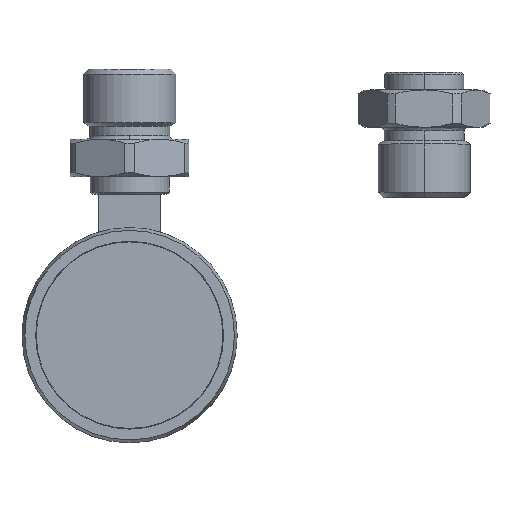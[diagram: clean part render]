
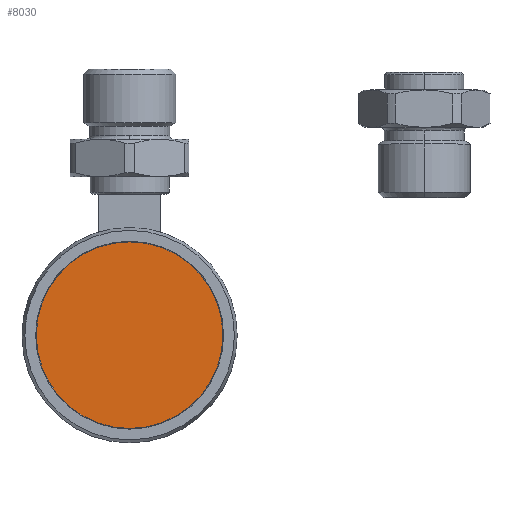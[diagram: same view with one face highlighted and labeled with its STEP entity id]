
A CAD part, top view. The second image highlights one B-rep face of the part: STEP entity #8030.
In plain terms, the highlighted planar face has unit normal (0, 0, 1) as drawn and (1, 0, 0) by its records, which use the part's own axes.
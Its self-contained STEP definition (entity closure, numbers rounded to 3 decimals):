
#150 = EDGE_CURVE ( 'NONE', #9973, #9540, #4288, .T. ) ;
#1051 = FACE_OUTER_BOUND ( 'NONE', #12734, .T. ) ;
#1355 = DIRECTION ( 'NONE',  ( 0., 1., 0. ) ) ;
#1902 = CIRCLE ( 'NONE', #12475, 21.25 ) ;
#2203 = AXIS2_PLACEMENT_3D ( 'NONE', #12285, #16583, #1355 ) ;
#3160 = CARTESIAN_POINT ( 'NONE',  ( 3.179, 0., 0. ) ) ;
#4116 = CARTESIAN_POINT ( 'NONE',  ( 3.179, 0., 0. ) ) ;
#4288 = CIRCLE ( 'NONE', #7824, 21.25 ) ;
#7824 = AXIS2_PLACEMENT_3D ( 'NONE', #4116, #11843, #8452 ) ;
#8030 = ADVANCED_FACE ( 'NONE', ( #1051 ), #10109, .T. ) ;
#8452 = DIRECTION ( 'NONE',  ( 0., 1., 0. ) ) ;
#9163 = EDGE_CURVE ( 'NONE', #9540, #9973, #1902, .T. ) ;
#9396 = DIRECTION ( 'NONE',  ( 0., 1., 0. ) ) ;
#9540 = VERTEX_POINT ( 'NONE', #17049 ) ;
#9973 = VERTEX_POINT ( 'NONE', #13387 ) ;
#10109 = PLANE ( 'NONE',  #2203 ) ;
#10390 = ORIENTED_EDGE ( 'NONE', *, *, #150, .T. ) ;
#10998 = DIRECTION ( 'NONE',  ( 1., 0., 0. ) ) ;
#11843 = DIRECTION ( 'NONE',  ( 1., 0., 0. ) ) ;
#12174 = ORIENTED_EDGE ( 'NONE', *, *, #9163, .T. ) ;
#12285 = CARTESIAN_POINT ( 'NONE',  ( 3.179, 0., -21.25 ) ) ;
#12475 = AXIS2_PLACEMENT_3D ( 'NONE', #3160, #10998, #9396 ) ;
#12734 = EDGE_LOOP ( 'NONE', ( #12174, #10390 ) ) ;
#13387 = CARTESIAN_POINT ( 'NONE',  ( 3.179, -21.25, 0. ) ) ;
#16583 = DIRECTION ( 'NONE',  ( 1., 0., 0. ) ) ;
#17049 = CARTESIAN_POINT ( 'NONE',  ( 3.179, 21.25, 0. ) ) ;
